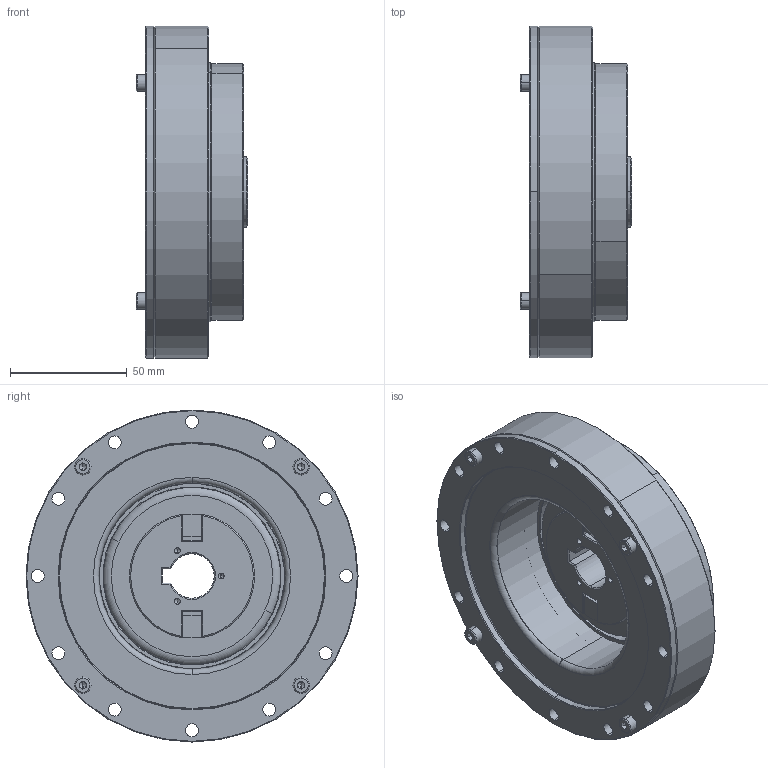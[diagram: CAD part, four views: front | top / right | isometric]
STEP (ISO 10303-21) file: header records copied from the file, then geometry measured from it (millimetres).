
FILE_DESCRIPTION (( 'STEP AP214' ), '1' );
FILE_NAME ('SHF-32-I.STEP', '2021-07-04T02:46:31', ( 'PC' ), ( 'Microsoft' ), 'SwSTEP 2.0', 'SolidWorks 2016', '' );
FILE_SCHEMA (( 'AUTOMOTIVE_DESIGN' ));
Length unit declared in the file: millimetre
Products named in the file (21): 交叉轴承-外圈-STRU-32-142-宽234; Oﾐﾎﾃﾜｷ篳ｦ-ｦｵ90Xｦｵ1.8_猤ﾔO; 30-轴用弹性挡圈_預設; SHF-32-I; hexagon socket head cap screws gb_GB_FASTENER_SCREWS_HSHCS M4X12-C; 32-80疏楷汜ん郪璃_蕼偞; STXB-T32-80-P04_蕼偞; 32柔性轴承; STXB-T32-P05_蕼偞; STXB-T32-P03_蕼偞; STXB-T32-P02_蕼偞; STXB-T32-P01_蕼偞; 荎秶試謫-STXB-32080-01; 英制柔轮-STXB-32080-01; 蝠脫粣創-STRU-32-142-234X朴142-V1; 32眄璃; 交叉轴承隔块-32-142-反向-V0; 蝠脫粣創路輸-32-142-V0; 蝠脫粣創-蚐猾-STRU-32-142; 蝠脫粣創-幗赽-朴8; 交叉轴承-内圈-STRU-32-142-宽234-V1
Assembly tree (96 placements, depth 3):
  SHF-32-I
    蝠脫粣創-STRU-32-142-234X朴142-V1
      交叉轴承-外圈-STRU-32-142-宽234
      交叉轴承-内圈-STRU-32-142-宽234-V1
      蝠脫粣創-幗赽-朴8  x36
      蝠脫粣創-蚐猾-STRU-32-142
      蝠脫粣創路輸-32-142-V0  x18
      交叉轴承隔块-32-142-反向-V0  x18
      32眄璃
    英制柔轮-STXB-32080-01
    荎秶試謫-STXB-32080-01
    32-80疏楷汜ん郪璃_蕼偞
      STXB-T32-P01_蕼偞
      STXB-T32-P02_蕼偞
      STXB-T32-P03_蕼偞
      STXB-T32-P05_蕼偞
      32柔性轴承
      STXB-T32-80-P04_蕼偞
    hexagon socket head cap screws gb_GB_FASTENER_SCREWS_HSHCS M4X12-C  x8
    30-轴用弹性挡圈_預設
    Oﾐﾎﾃﾜｷ篳ｦ-ｦｵ90Xｦｵ1.8_猤ﾔO
Bounding box: 47.8 x 142 x 142 mm (x, y, z)
Volume: 351766.3 mm3; surface area: 200266.1 mm2
Topology: 94 solids, 94 shells, 1474 faces, 3328 edges, 2032 vertices
Faces by surface type: plane 637, cylinder 458, cone 335, torus 38, bspline 6
Entity records: 24643 total; most frequent: CARTESIAN_POINT 6203, DIRECTION 3806, ORIENTED_EDGE 3128, EDGE_CURVE 1564, AXIS2_PLACEMENT_3D 1535, VERTEX_POINT 977, EDGE_LOOP 861, CIRCLE 761
